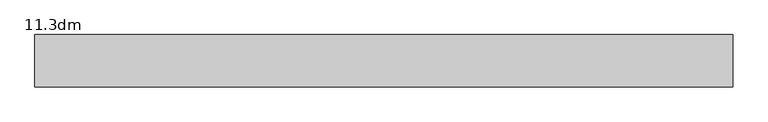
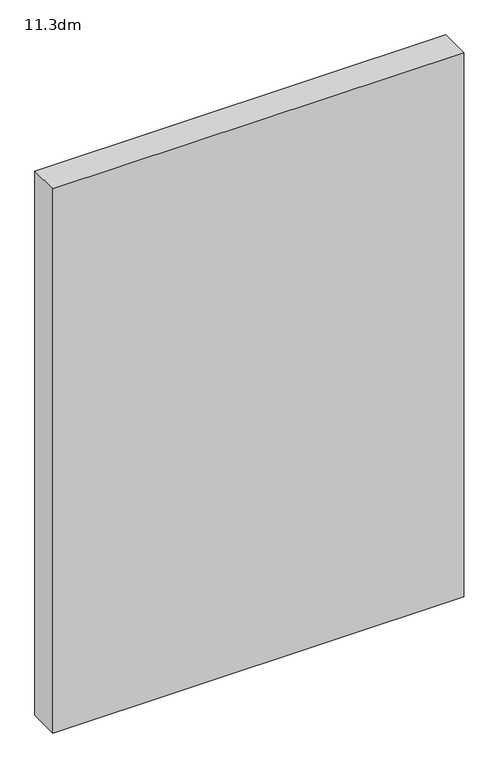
"""IFC4 building model written with IfcOpenShell, lengths in millimetres: proxy geometry, 11.3dm."""

from ifc_helpers import new_model, si_unit, origin, origin_with_axes, place, context, project, spatial, polyline, outline, extrude, source, transform, mapped, element, save


def proxy_11_3dm_48c2d1bd(model_context):
    return source(origin(), model_context, "Body", "SweptSolid", [
        extrude(outline(polyline([(6762.0, 12.0), (6762.0, 162.0), (8762.0, 162.0), (8762.0, 12.0), (6762.0, 12.0)])), origin_with_axes(), (0.0, 0.0, 1.0), 2800.0),
    ])


if __name__ == "__main__":
    model = new_model("IFC4")
    model_context = context("Model", 3, world=origin())
    ifc_project = project(units=[si_unit("LENGTHUNIT", "METRE", prefix="MILLI")], contexts=[model_context])
    site = spatial("IfcSite", under=ifc_project)
    building = spatial("IfcBuilding", under=site)
    placement = place(None, origin())
    proxy_11_3dm_shape = proxy_11_3dm_48c2d1bd(model_context)
    element("IfcBuildingElementProxy", 1, Name="11.3dm", ObjectType="11.3dm", at=placement, inside=building, context=model_context, shape_type="MappedRepresentation", body=[
        mapped(proxy_11_3dm_shape, transform((0.0, 0.0, 0.0), x_axis=(1.0, 0.0, 0.0), y_axis=(0.0, 1.0, 0.0), z_axis=(0.0, 0.0, 1.0))),
    ])
    save(model, "model.ifc")
